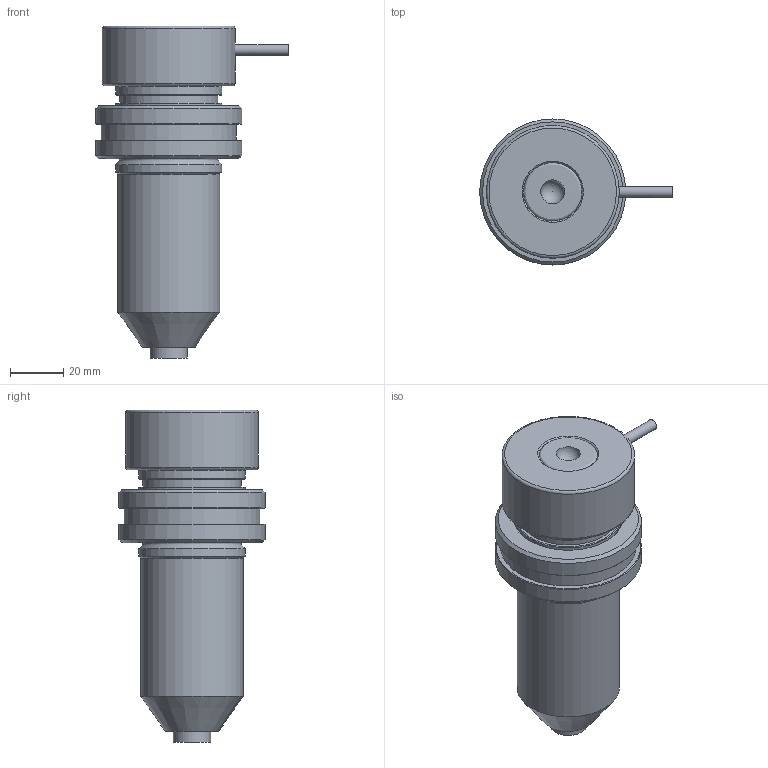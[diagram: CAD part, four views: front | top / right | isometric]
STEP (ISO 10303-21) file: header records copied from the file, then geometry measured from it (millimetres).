
FILE_DESCRIPTION(('STEP AP214'),'1');
FILE_NAME('IPM1000-C.stp','2018-06-13T07:10:33',(' '),(' '),'Spatial InterOp 3D',' ',' ');
FILE_SCHEMA(('AUTOMOTIVE_DESIGN { 1 0 10303 214 1 1 1 1 }'));
Length unit declared in the file: millimetre
Products named in the file (1): 1
Bounding box: 72.5 x 55 x 125 mm (x, y, z)
Volume: 144396.8 mm3; surface area: 47126.1 mm2
Topology: 4 solids, 4 shells, 84 faces, 160 edges, 96 vertices
Faces by surface type: cylinder 25, cone 23, plane 22, revolution 7, torus 6, sphere 1
Full cylindrical faces by diameter (mm): 2.5 x1, 4 x1, 6 x1, 6.55 x1, 9.1 x1, 9.5 x1, 9.51 x1, 14.5 x1, 14.52 x1, 22 x1, 30 x2, 35 x1, 37 x1, 38.5 x1, 39.4 x1, 40 x5, 50 x1, 51 x1, 55 x2
Entity records: 2706 total; most frequent: CARTESIAN_POINT 559, DIRECTION 331, ORIENTED_EDGE 180, EDGE_LOOP 162, AXIS2_PLACEMENT_3D 161, FACE_OUTER_BOUND 119, EDGE_CURVE 90, VERTEX_POINT 87
